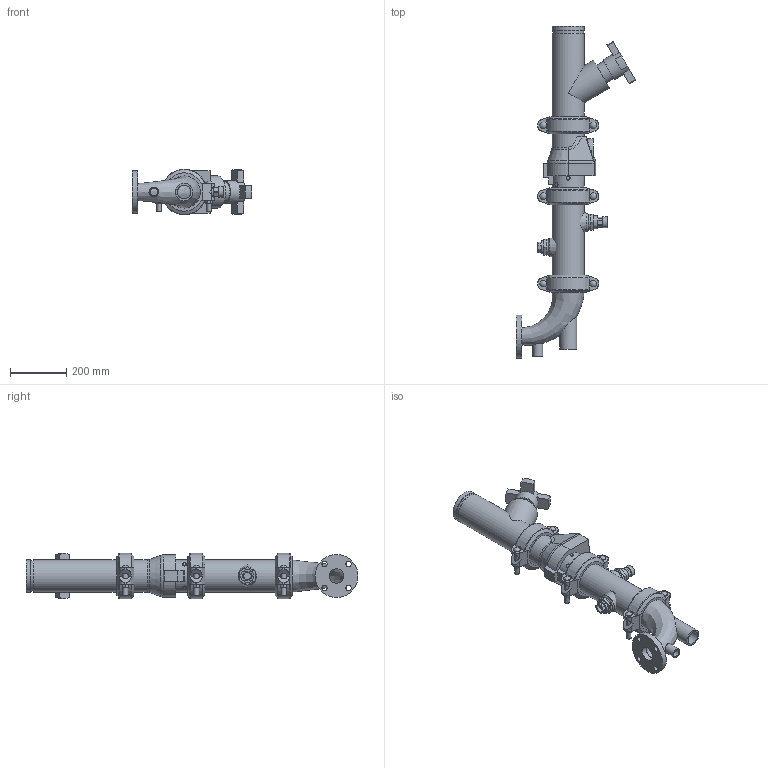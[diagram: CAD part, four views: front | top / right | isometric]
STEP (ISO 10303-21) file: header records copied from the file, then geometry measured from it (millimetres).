
FILE_DESCRIPTION(/* description */ ('VIC DVI PUMP DROP HORZ S/383 (OGSxFLG) (S/924-0.75)','CAx-IF Rec.Pracs.---Representation and Presentation of Product Manufacturing Information (PMI)---4.0---2014-10-13'),/* implementation_level */ '2;1');
FILE_NAME(/* name */ 'C:\Users\Vjadhav\AppData\Roaming\Autodesk\ApplicationPlugins\Victaulic.Temp\A892\Victaulic_IPS_Horizontal DVI_CL 150_Series 383 (OGSxFLG)_924 (0.75)_04.0x02.0 (100x50).stp',/* time_stamp */ '2022-02-28T15:42:26+05:00',/* author */ ('kkamble'),/* organization */ ('Victaulic'),/* preprocessor_version */ 'ST-DEVELOPER v17.2',/* originating_system */ 'Autodesk Inventor 2019',/* authorisation */ '');
FILE_SCHEMA (('AP242_MANAGED_MODEL_BASED_3D_ENGINEERING_MIM_LF { 1 0 10303 442 1 1 4 }'));
Length unit declared in the file: inch
Products named in the file (8): 383-924 (0.75)-04.0x02.0; Pipe-04.0x02.0; 789-04.0; 177N-04.0; 779-04.0; 923-04.0x0.75; 924-04.0x0.75; R100F-04.0x02.0
Assembly tree (9 placements, depth 2):
  383-924 (0.75)-04.0x02.0
    177N-04.0  x3
    Pipe-04.0x02.0
    789-04.0
    779-04.0
    923-04.0x0.75
    924-04.0x0.75
    R100F-04.0x02.0
Bounding box: 423.93 x 1179.51 x 162.05 mm (x, y, z)
Volume: 7727961.2 mm3; surface area: 1356678.5 mm2
Topology: 9 solids, 9 shells, 527 faces, 1409 edges, 939 vertices
Faces by surface type: plane 305, cylinder 175, torus 18, cone 17, sphere 6, bspline 6
Full cylindrical faces by diameter (mm): 13.716 x2, 17.424 x6, 19.05 x4, 23.495 x6, 26.67 x3, 34.29 x1, 38.608 x1, 45.974 x4, 48.26 x1, 52.502 x1, 55.626 x2, 60.96 x1, 72.39 x1, 82.55 x1, 101.6 x3, 102.26 x4, 110.084 x7, 114.3 x18, 152.4 x1
Entity records: 12572 total; most frequent: CARTESIAN_POINT 3248, DIRECTION 1907, ORIENTED_EDGE 1766, EDGE_CURVE 883, AXIS2_PLACEMENT_3D 728, VERTEX_POINT 595, LINE 451, VECTOR 451
